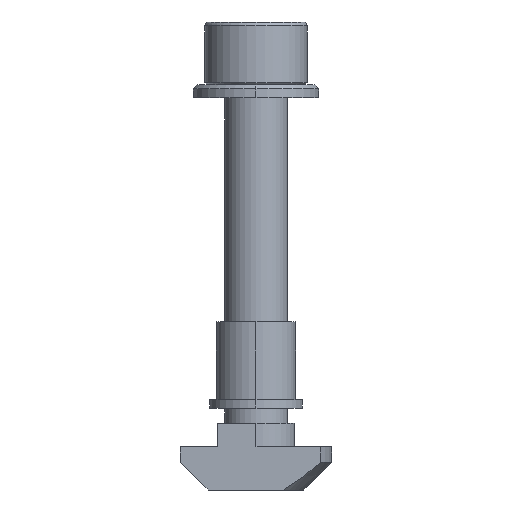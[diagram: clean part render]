
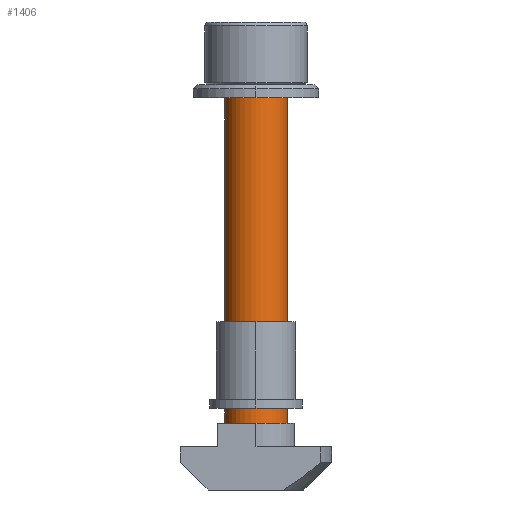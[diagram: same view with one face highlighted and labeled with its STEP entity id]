
A CAD part, left-side view. The second image highlights one B-rep face of the part: STEP entity #1406.
In plain terms, the highlighted cylindrical face has radius 4 mm (diameter 8 mm), a partial arc.
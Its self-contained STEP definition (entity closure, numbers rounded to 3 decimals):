
#8 = CARTESIAN_POINT ( 'NONE',  ( -73., -4., -10. ) ) ;
#40 = LINE ( 'NONE', #3681, #727 ) ;
#244 = DIRECTION ( 'NONE',  ( 0., 0., 1. ) ) ;
#255 = ORIENTED_EDGE ( 'NONE', *, *, #1107, .T. ) ;
#260 = CARTESIAN_POINT ( 'NONE',  ( -73.05, 4., 4.405 ) ) ;
#270 = CARTESIAN_POINT ( 'NONE',  ( -73.01, 4., 4.351 ) ) ;
#297 = VERTEX_POINT ( 'NONE', #2168 ) ;
#514 = EDGE_CURVE ( 'NONE', #297, #3679, #1801, .T. ) ;
#535 = CARTESIAN_POINT ( 'NONE',  ( -73.011, 4., 4.449 ) ) ;
#543 = CARTESIAN_POINT ( 'NONE',  ( -73.05, 4., 4.394 ) ) ;
#557 = CARTESIAN_POINT ( 'NONE',  ( -73.004, 4., 4.35 ) ) ;
#565 = AXIS2_PLACEMENT_3D ( 'NONE', #1931, #244, #2220 ) ;
#581 = DIRECTION ( 'NONE',  ( 0., 0., 1. ) ) ;
#658 = CARTESIAN_POINT ( 'NONE',  ( -73., -4., 40. ) ) ;
#667 = CYLINDRICAL_SURFACE ( 'NONE', #2229, 4. ) ;
#727 = VECTOR ( 'NONE', #1129, 1000. ) ;
#773 = DIRECTION ( 'NONE',  ( 0., 0., 1. ) ) ;
#839 = CARTESIAN_POINT ( 'NONE',  ( -73.022, 4., 4.445 ) ) ;
#851 = CARTESIAN_POINT ( 'NONE',  ( -73.047, 4., 4.383 ) ) ;
#952 = CARTESIAN_POINT ( 'NONE',  ( -73., 4., 40. ) ) ;
#1044 = DIRECTION ( 'NONE',  ( 0., 1., 0. ) ) ;
#1107 = EDGE_CURVE ( 'NONE', #297, #1255, #1736, .T. ) ;
#1112 = CARTESIAN_POINT ( 'NONE',  ( -73.032, 4., 4.439 ) ) ;
#1120 = CARTESIAN_POINT ( 'NONE',  ( -73.042, 4., 4.373 ) ) ;
#1129 = DIRECTION ( 'NONE',  ( 0., 0., 1. ) ) ;
#1255 = VERTEX_POINT ( 'NONE', #2384 ) ;
#1307 = VECTOR ( 'NONE', #581, 1000. ) ;
#1395 = CARTESIAN_POINT ( 'NONE',  ( -73.039, 4., 4.431 ) ) ;
#1406 = ADVANCED_FACE ( 'NONE', ( #1520 ), #667, .T. ) ;
#1410 = CARTESIAN_POINT ( 'NONE',  ( -73.035, 4., 4.364 ) ) ;
#1420 = AXIS2_PLACEMENT_3D ( 'NONE', #2449, #773, #2729 ) ;
#1463 = ORIENTED_EDGE ( 'NONE', *, *, #2525, .T. ) ;
#1520 = FACE_OUTER_BOUND ( 'NONE', #3621, .T. ) ;
#1532 = CARTESIAN_POINT ( 'NONE',  ( -73., 4., 4.45 ) ) ;
#1541 = ORIENTED_EDGE ( 'NONE', *, *, #3024, .F. ) ;
#1571 = B_SPLINE_CURVE_WITH_KNOTS ( 'NONE', 3,
 ( #2770, #3339, #2230, #535, #2515, #839, #2793, #1112, #3083, #1395, #3363, #1684, #3658, #1948, #260, #2242, #543, #2521, #851, #2801, #1120, #3091, #1410, #3369, #1691, #3671, #1957, #270, #2248, #557, #2531 ),
 .UNSPECIFIED., .F., .F.,
 ( 4, 3, 3, 3, 3, 3, 3, 3, 3, 3, 4 ),
 ( 0., 0., 0., 0., 0., 0., 0., 0., 0., 0., 0. ),
 .UNSPECIFIED. ) ;
#1629 = CARTESIAN_POINT ( 'NONE',  ( -73., 4., 4.35 ) ) ;
#1684 = CARTESIAN_POINT ( 'NONE',  ( -73.046, 4., 4.421 ) ) ;
#1691 = CARTESIAN_POINT ( 'NONE',  ( -73.026, 4., 4.357 ) ) ;
#1736 = CIRCLE ( 'NONE', #565, 4. ) ;
#1801 = LINE ( 'NONE', #2718, #1879 ) ;
#1866 = CARTESIAN_POINT ( 'NONE',  ( -73., 0., -10. ) ) ;
#1879 = VECTOR ( 'NONE', #2426, 1000. ) ;
#1908 = DIRECTION ( 'NONE',  ( 0., 0., 1. ) ) ;
#1931 = CARTESIAN_POINT ( 'NONE',  ( -73., 0., -3. ) ) ;
#1948 = CARTESIAN_POINT ( 'NONE',  ( -73.049, 4., 4.411 ) ) ;
#1957 = CARTESIAN_POINT ( 'NONE',  ( -73.016, 4., 4.352 ) ) ;
#2042 = LINE ( 'NONE', #8, #1307 ) ;
#2168 = CARTESIAN_POINT ( 'NONE',  ( -73., 4., -3. ) ) ;
#2220 = DIRECTION ( 'NONE',  ( -1., 0., 0. ) ) ;
#2229 = AXIS2_PLACEMENT_3D ( 'NONE', #1866, #1908, #1044 ) ;
#2230 = CARTESIAN_POINT ( 'NONE',  ( -73.008, 4., 4.45 ) ) ;
#2242 = CARTESIAN_POINT ( 'NONE',  ( -73.05, 4., 4.399 ) ) ;
#2248 = CARTESIAN_POINT ( 'NONE',  ( -73.007, 4., 4.35 ) ) ;
#2384 = CARTESIAN_POINT ( 'NONE',  ( -73., -4., -3. ) ) ;
#2426 = DIRECTION ( 'NONE',  ( 0., 0., 1. ) ) ;
#2449 = CARTESIAN_POINT ( 'NONE',  ( -73., 0., 40. ) ) ;
#2515 = CARTESIAN_POINT ( 'NONE',  ( -73.017, 4., 4.447 ) ) ;
#2521 = CARTESIAN_POINT ( 'NONE',  ( -73.049, 4., 4.388 ) ) ;
#2525 = EDGE_CURVE ( 'NONE', #1255, #2713, #2042, .T. ) ;
#2531 = CARTESIAN_POINT ( 'NONE',  ( -73., 4., 4.35 ) ) ;
#2568 = ORIENTED_EDGE ( 'NONE', *, *, #2949, .T. ) ;
#2713 = VERTEX_POINT ( 'NONE', #658 ) ;
#2718 = CARTESIAN_POINT ( 'NONE',  ( -73., 4., -10. ) ) ;
#2729 = DIRECTION ( 'NONE',  ( 0., 1., 0. ) ) ;
#2770 = CARTESIAN_POINT ( 'NONE',  ( -73., 4., 4.45 ) ) ;
#2793 = CARTESIAN_POINT ( 'NONE',  ( -73.027, 4., 4.442 ) ) ;
#2801 = CARTESIAN_POINT ( 'NONE',  ( -73.045, 4., 4.378 ) ) ;
#2819 = CIRCLE ( 'NONE', #1420, 4. ) ;
#2949 = EDGE_CURVE ( 'NONE', #3250, #3679, #1571, .T. ) ;
#2954 = ORIENTED_EDGE ( 'NONE', *, *, #514, .F. ) ;
#3024 = EDGE_CURVE ( 'NONE', #3250, #3149, #40, .T. ) ;
#3083 = CARTESIAN_POINT ( 'NONE',  ( -73.036, 4., 4.435 ) ) ;
#3091 = CARTESIAN_POINT ( 'NONE',  ( -73.039, 4., 4.368 ) ) ;
#3149 = VERTEX_POINT ( 'NONE', #952 ) ;
#3250 = VERTEX_POINT ( 'NONE', #1532 ) ;
#3339 = CARTESIAN_POINT ( 'NONE',  ( -73.004, 4., 4.45 ) ) ;
#3363 = CARTESIAN_POINT ( 'NONE',  ( -73.043, 4., 4.426 ) ) ;
#3369 = CARTESIAN_POINT ( 'NONE',  ( -73.031, 4., 4.36 ) ) ;
#3589 = ORIENTED_EDGE ( 'NONE', *, *, #3670, .F. ) ;
#3621 = EDGE_LOOP ( 'NONE', ( #255, #1463, #3589, #1541, #2568, #2954 ) ) ;
#3658 = CARTESIAN_POINT ( 'NONE',  ( -73.047, 4., 4.416 ) ) ;
#3670 = EDGE_CURVE ( 'NONE', #3149, #2713, #2819, .T. ) ;
#3671 = CARTESIAN_POINT ( 'NONE',  ( -73.021, 4., 4.354 ) ) ;
#3679 = VERTEX_POINT ( 'NONE', #1629 ) ;
#3681 = CARTESIAN_POINT ( 'NONE',  ( -73., 4., -10. ) ) ;
